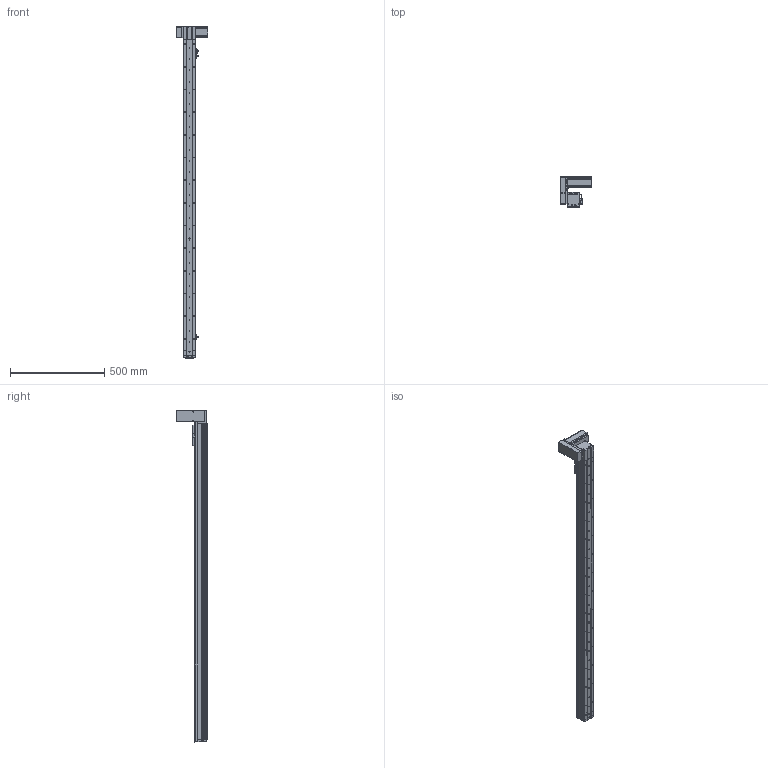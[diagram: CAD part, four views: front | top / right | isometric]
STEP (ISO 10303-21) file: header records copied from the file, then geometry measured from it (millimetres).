
FILE_DESCRIPTION (( 'STEP AP214' ), '1' );
FILE_NAME ('KSD68BS-S1500-MRU-CR.STEP', '2019-08-29T00:57:36', ( '微软用户' ), ( '微软中国' ), 'SwSTEP 2.0', 'SolidWorks 2014', '' );
FILE_SCHEMA (( 'AUTOMOTIVE_DESIGN' ));
Length unit declared in the file: millimetre
Products named in the file (14): 68宽单导轨全封闭丝杆传动安装板1防护罩; KSD68BS 1500行程侧板全封闭; 68宽单导轨全封闭同步带端板; 68单导轨全封闭同步带电机座右; 68单导轨全封闭同步带安装板; 悵誘欶奻狟殏; 68宽马达安装板连板上折同步带; 感应片68宽全封闭; U倰嫖萇EEㄜSX672; 台达ECMA－C20604AS伺服电机（400W); KSD68BS 1500行程底板全封闭; 68遵裔啣揤啣1; KSD68BS-S1500-MRU-CR; KSD68BS 1500行程盖板全封闭
Assembly tree (17 placements, depth 2):
  KSD68BS-S1500-MRU-CR
    KSD68BS 1500行程底板全封闭
    台达ECMA－C20604AS伺服电机（400W)
    U倰嫖萇EEㄜSX672  x3
    感应片68宽全封闭
    68宽马达安装板连板上折同步带
    悵誘欶奻狟殏
    68单导轨全封闭同步带安装板
    68单导轨全封闭同步带电机座右
    68宽单导轨全封闭同步带端板
    KSD68BS 1500行程侧板全封闭  x2
    68宽单导轨全封闭丝杆传动安装板1防护罩
    68遵裔啣揤啣1  x2
    KSD68BS 1500行程盖板全封闭
Bounding box: 167.2 x 159.5 x 1758.1 mm (x, y, z)
Volume: 3210683.4 mm3; surface area: 1290013.8 mm2
Topology: 18 solids, 18 shells, 1602 faces, 4611 edges, 2937 vertices
Faces by surface type: cylinder 783, plane 631, cone 188
Entity records: 52090 total; most frequent: CARTESIAN_POINT 9031, DIRECTION 7763, ORIENTED_EDGE 7426, EDGE_CURVE 3713, AXIS2_PLACEMENT_3D 2827, VERTEX_POINT 2435, VECTOR 2109, LINE 2109
